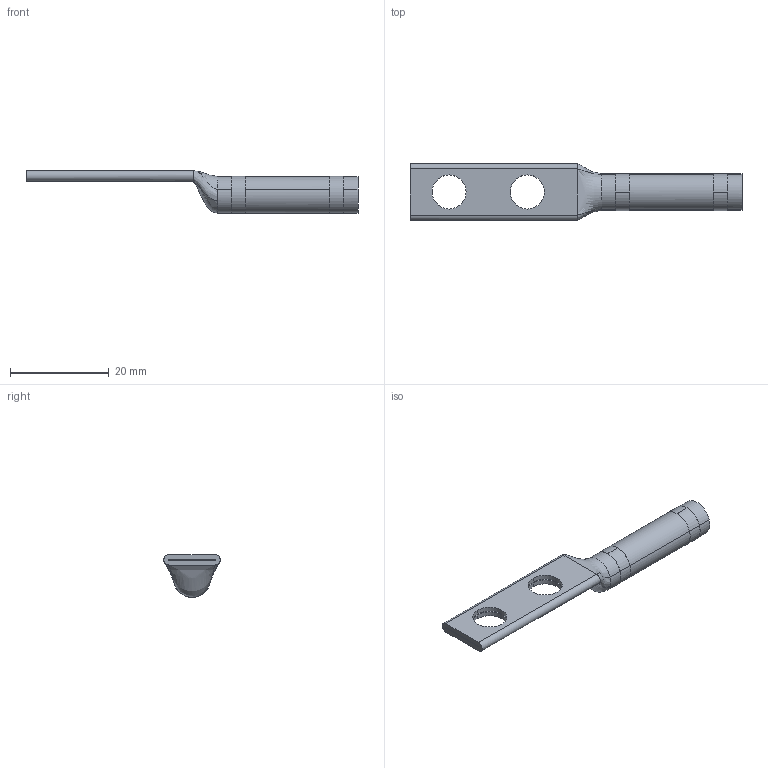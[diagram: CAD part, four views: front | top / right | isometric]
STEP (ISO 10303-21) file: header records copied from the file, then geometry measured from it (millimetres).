
FILE_DESCRIPTION((''),'2;1');
FILE_NAME('50237T','2013-07-11T',('vsubramanian'),(''),'PRO/ENGINEER BY PARAMETRIC TECHNOLOGY CORPORATION, 2012090','PRO/ENGINEER BY PARAMETRIC TECHNOLOGY CORPORATION, 2012090','');
FILE_SCHEMA(('CONFIG_CONTROL_DESIGN'));
Length unit declared in the file: inch
Products named in the file (1): 50237T
Bounding box: 67.39 x 11.48 x 8.66 mm (x, y, z)
Volume: 1395 mm3; surface area: 2958 mm2
Topology: 3 solids, 3 shells, 44 faces, 111 edges, 73 vertices
Faces by surface type: cylinder 24, plane 10, bspline 8, cone 2
Entity records: 2008 total; most frequent: CARTESIAN_POINT 922, ORIENTED_EDGE 222, DIRECTION 197, EDGE_CURVE 111, AXIS2_PLACEMENT_3D 81, VERTEX_POINT 73, EDGE_LOOP 58, CIRCLE 45
